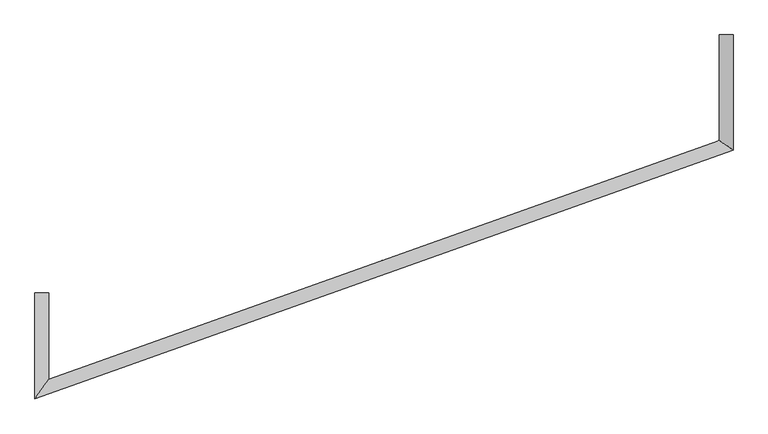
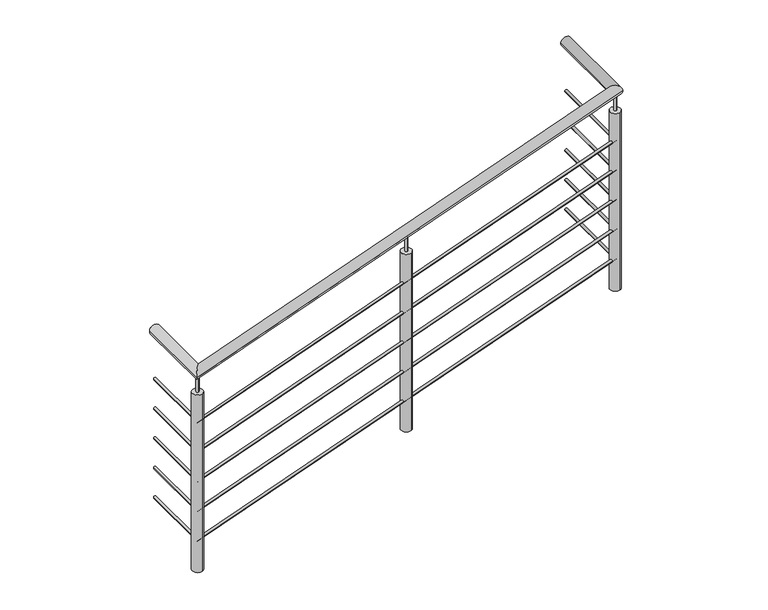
"""IFC4 building model written with IfcOpenShell, lengths in millimetres: railing geometry, Barandal general 2 sin inicio."""

import ifcopenshell
import ifcopenshell.guid

model = None  # the IFC model being written
_history = None  # IfcOwnerHistory: only IFC2X3 demands one
_inside = {}  # id of a spatial element -> (the spatial element, [elements in it])
_under = {}  # id of a project, library or spatial element -> (it, [spatial elements below it])
_declared = {}  # id of a project -> (the project, [libraries it declares])
_typed = {}  # id of a type object -> (the type object, [elements of that type])
_made_of = {}  # id of a material, layer set ... -> (it, [elements and type objects made of it])


def new_model(schema):
    """Start an empty IFC model of exactly this schema.

    Asked for "IFC4X3", IfcOpenShell would pick the latest addendum, in which some entities
    have other attributes; the version numbers below select the first issue.
    IFC2X3 requires an IfcOwnerHistory on every rooted entity: one is made here for all.
    """
    global model, _history
    if schema == "IFC4X3":
        model = ifcopenshell.file(schema_version=(4, 3, 0, 0))
    else:
        model = ifcopenshell.file(schema=schema)
    _inside.clear()
    _under.clear()
    _declared.clear()
    _typed.clear()
    _made_of.clear()
    _history = None
    if model.schema == "IFC2X3":
        org = make("IfcOrganization", Name="unknown")
        user = make(
            "IfcPersonAndOrganization",
            ThePerson=make("IfcPerson", FamilyName="unknown"),
            TheOrganization=org,
        )
        app = make(
            "IfcApplication",
            ApplicationDeveloper=org,
            Version="unknown",
            ApplicationFullName="unknown",
            ApplicationIdentifier="unknown",
        )
        _history = make(
            "IfcOwnerHistory",
            OwningUser=user,
            OwningApplication=app,
            ChangeAction="ADDED",
            CreationDate=0,
        )
    return model


def make(cls, **values):
    """One entity of the class cls with the attributes given. An attribute that is None is left unset."""
    return model.create_entity(
        cls, **{name: value for name, value in values.items() if value is not None}
    )


def rooted(cls, **values):
    """An entity with a GlobalId (a new one), such as an element, a storey or a relation."""
    return make(cls, GlobalId=ifcopenshell.guid.new(), OwnerHistory=_history, **values)


def si_unit(unit_type, name, prefix=None):
    """IfcSIUnit, for example si_unit("LENGTHUNIT", "METRE", prefix="MILLI")."""
    return make("IfcSIUnit", UnitType=unit_type, Prefix=prefix, Name=name)


def assignment(units):
    """IfcUnitAssignment: the units of a project."""
    return None if units is None else make("IfcUnitAssignment", Units=units)


def point(xyz):
    """IfcCartesianPoint."""
    return None if xyz is None else make("IfcCartesianPoint", Coordinates=xyz)


def direction(xyz):
    """IfcDirection."""
    return None if xyz is None else make("IfcDirection", DirectionRatios=xyz)


def frame(location, z_axis=None, x_axis=None):
    """IfcAxis2Placement3D, a coordinate frame: its origin and axes. An axis left out is left unset."""
    return make(
        "IfcAxis2Placement3D",
        Location=point(location),
        Axis=direction(z_axis),
        RefDirection=direction(x_axis),
    )


def frame_2d(location, x_axis=None):
    """IfcAxis2Placement2D, a coordinate frame in the plane: its origin and x axis."""
    return make(
        "IfcAxis2Placement2D", Location=point(location), RefDirection=direction(x_axis)
    )


def origin():
    """The frame at (0, 0, 0) with its axes left unset."""
    return frame((0.0, 0.0, 0.0))


def place(relative_to, where):
    """IfcLocalPlacement: puts the frame where relative to a parent placement (None: the world)."""
    return make(
        "IfcLocalPlacement", PlacementRelTo=relative_to, RelativePlacement=where
    )


def context(
    kind, dimensions, precision=None, world=None, true_north=None, identifier=None
):
    """IfcGeometricRepresentationContext, for example the 3D "Model" context."""
    return make(
        "IfcGeometricRepresentationContext",
        ContextIdentifier=identifier,
        ContextType=kind,
        CoordinateSpaceDimension=dimensions,
        Precision=precision,
        WorldCoordinateSystem=world,
        TrueNorth=true_north,
    )


def project(units=None, contexts=None):
    """IfcProject with its units and contexts."""
    return rooted(
        "IfcProject",
        Name="project",
        RepresentationContexts=contexts,
        UnitsInContext=assignment(units),
    )


def spatial(cls, under=None, at=None, **own):
    """A site, building, storey or space (cls), placed at a placement, below another one or the project."""
    s = rooted(cls, ObjectPlacement=at, **own)
    if under is not None:
        _under.setdefault(under.id(), (under, []))[1].append(s)
    return s


def circle_curve(where, radius):
    """IfcCircle in the frame where."""
    return make("IfcCircle", Position=where, Radius=radius)


def ellipse_curve(where, semi_axis1, semi_axis2):
    """IfcEllipse in the frame where."""
    return make(
        "IfcEllipse", Position=where, SemiAxis1=semi_axis1, SemiAxis2=semi_axis2
    )


def trimmed(basis, trim1, trim2, sense, master):
    """IfcTrimmedCurve: the piece of a basis curve between two trims."""
    return make(
        "IfcTrimmedCurve",
        BasisCurve=basis,
        Trim1=trim1,
        Trim2=trim2,
        SenseAgreement=sense,
        MasterRepresentation=master,
    )


def segment(curve, same_sense, transition):
    """IfcCompositeCurveSegment."""
    return make(
        "IfcCompositeCurveSegment",
        Transition=transition,
        SameSense=same_sense,
        ParentCurve=curve,
    )


def composite_curve(segments, self_intersect=None):
    """IfcCompositeCurve: segments joined end to end."""
    return make("IfcCompositeCurve", Segments=segments, SelfIntersect=self_intersect)


def outline(outer, holes=None, kind="AREA"):
    """IfcArbitraryClosedProfileDef: a profile drawn as a closed curve; with holes, ...WithVoids."""
    if holes is None:
        return make("IfcArbitraryClosedProfileDef", ProfileType=kind, OuterCurve=outer)
    return make(
        "IfcArbitraryProfileDefWithVoids",
        ProfileType=kind,
        OuterCurve=outer,
        InnerCurves=holes,
    )


def extrude(swept, where, along, depth):
    """IfcExtrudedAreaSolid: the profile swept, set in the frame where, extruded along a direction by depth."""
    return make(
        "IfcExtrudedAreaSolid",
        SweptArea=swept,
        Position=where,
        ExtrudedDirection=direction(along),
        Depth=depth,
    )


def shape(context_of_items, identifier, shape_type, items):
    """IfcShapeRepresentation: the items that make up one representation, for example the "Body"."""
    return make(
        "IfcShapeRepresentation",
        ContextOfItems=context_of_items,
        RepresentationIdentifier=identifier,
        RepresentationType=shape_type,
        Items=items,
    )


def source(mapping_origin, context_of_items, identifier, shape_type, items):
    """IfcRepresentationMap: a shape defined once, which mapped items show again and again."""
    return make(
        "IfcRepresentationMap",
        MappingOrigin=mapping_origin,
        MappedRepresentation=shape(context_of_items, identifier, shape_type, items),
    )


def transform(
    local_origin,
    x_axis=None,
    y_axis=None,
    z_axis=None,
    scale=None,
    scale2=None,
    scale3=None,
    uniform=True,
):
    """IfcCartesianTransformationOperator3D, or its non-uniform kind. x_axis, y_axis, z_axis: its Axis1, 2, 3."""
    if uniform:
        return make(
            "IfcCartesianTransformationOperator3D",
            Axis1=direction(x_axis),
            Axis2=direction(y_axis),
            LocalOrigin=point(local_origin),
            Scale=scale,
            Axis3=direction(z_axis),
        )
    return make(
        "IfcCartesianTransformationOperator3DnonUniform",
        Axis1=direction(x_axis),
        Axis2=direction(y_axis),
        LocalOrigin=point(local_origin),
        Scale=scale,
        Axis3=direction(z_axis),
        Scale2=scale2,
        Scale3=scale3,
    )


def mapped(mapping_source, mapping_target):
    """IfcMappedItem: shows the shape of a source again, moved by a transform."""
    return make(
        "IfcMappedItem", MappingSource=mapping_source, MappingTarget=mapping_target
    )


def made_of(thing, what):
    """Note that an element or type object is made of a material, layer set ...; save() writes the relation."""
    if what is not None:
        _made_of.setdefault(what.id(), (what, []))[1].append(thing)
    return thing


def element(
    cls,
    number,
    at=None,
    inside=None,
    cuts=None,
    type_object=None,
    material=None,
    context=None,
    identifier="Body",
    shape_type=None,
    held_by="IfcProductDefinitionShape",
    body=None,
    shapes=None,
    **own,
):
    """One element of the class cls, such as IfcWall. Its Tag is "e" and its number.

    at: its placement. inside: the storey or other place that contains it. cuts: it is an
    opening in that element (IfcRelVoidsElement). A single representation is given by context,
    identifier, shape_type and body (its items); several are given by shapes. held_by: the class
    of the entity that holds the representations. save() writes the other relations.
    """
    e = rooted(cls, Tag="e%d" % number, ObjectPlacement=at, **own)
    if body is not None:
        shapes = [shape(context, identifier, shape_type, body)]
    if shapes is not None:
        e.Representation = make(held_by, Representations=shapes)
    if inside is not None:
        _inside.setdefault(inside.id(), (inside, []))[1].append(e)
    if cuts is not None:
        rooted(
            "IfcRelVoidsElement", RelatingBuildingElement=cuts, RelatedOpeningElement=e
        )
    if type_object is not None:
        _typed.setdefault(type_object.id(), (type_object, []))[1].append(e)
    return made_of(e, material)


def aggregate(whole, parts):
    """IfcRelAggregates: a whole, such as a stair, and the parts it consists of."""
    return rooted("IfcRelAggregates", RelatingObject=whole, RelatedObjects=parts)


def save(model, path):
    """Write the relations noted so far, then the file.

    IfcRelAggregates (storeys below a building ...), IfcRelContainedInSpatialStructure (elements
    in a storey), IfcRelDefinesByType, IfcRelAssociatesMaterial and IfcRelDeclares: one each for
    every whole, place, type object, material and project.
    """
    for whole, parts in _under.values():
        aggregate(whole, parts)
    for where, things in _inside.values():
        rooted(
            "IfcRelContainedInSpatialStructure",
            RelatedElements=things,
            RelatingStructure=where,
        )
    for kind, things in _typed.values():
        rooted("IfcRelDefinesByType", RelatedObjects=things, RelatingType=kind)
    for what, things in _made_of.values():
        rooted("IfcRelAssociatesMaterial", RelatedObjects=things, RelatingMaterial=what)
    for by, libraries in _declared.values():
        rooted("IfcRelDeclares", RelatingContext=by, RelatedDefinitions=libraries)
    model.write(path)


def plane_surface(at):
    """IfcPlane: the flat surface through the origin of the frame at, square to its z axis."""
    return make("IfcPlane", Position=at)


def cylinder_surface(at, radius):
    """IfcCylindricalSurface: all points at the distance radius from the z axis of the frame at."""
    return make("IfcCylindricalSurface", Position=at, Radius=radius)


def advanced_brep(points, edges, surfaces, faces):
    """IfcAdvancedBrep: a solid bounded by faces that lie on surfaces and meet in shared edges.

    An edge is (start, end): straight between two places in points (the first is 0);
    or (start, end, curve); or (start, end, curve, False) where it runs against its curve.
    A face is (place in surfaces, loops), or (place, loops, False) where it looks against
    its surface's normal. A loop lists edges by number (the first is 1), with a minus sign
    where the edge is run from its end to its start. The first loop is the outer one.
    """
    corners = [point(p) for p in points]
    vertices = [make("IfcVertexPoint", VertexGeometry=c) for c in corners]
    made = []
    for start, end, *more in edges:
        made.append(
            make(
                "IfcEdgeCurve",
                EdgeStart=vertices[start],
                EdgeEnd=vertices[end],
                EdgeGeometry=more[0] if more else make("IfcPolyline", Points=[corners[start], corners[end]]),
                SameSense=more[1] if len(more) > 1 else True,
            )
        )
    hull = []
    for where, loops, *sense in faces:
        bounds = []
        for j, loop in enumerate(loops):
            ring = [make("IfcOrientedEdge", EdgeElement=made[abs(k) - 1], Orientation=k > 0) for k in loop]
            bounds.append(
                make(
                    "IfcFaceOuterBound" if j == 0 else "IfcFaceBound",
                    Bound=make("IfcEdgeLoop", EdgeList=ring),
                    Orientation=True,
                )
            )
        hull.append(make("IfcAdvancedFace", Bounds=bounds, FaceSurface=surfaces[where], SameSense=sense[0] if sense else True))
    return make("IfcAdvancedBrep", Outer=make("IfcClosedShell", CfsFaces=hull))


def railing_feb85b43(model_context):
    return source(origin(), model_context, "Body", "SolidModel", [
        advanced_brep(
        [(39004.1057586, 22857.0021633, 7000.0), (39054.9057586, 22857.0021633, 7000.0), (39054.9057586, 22431.9822302, 7000.0), (39004.1057586, 22467.808589, 7000.0), (36484.1300226, 21515.8771439, 7000.0), (36534.9300226, 21587.9090245, 7000.0), (36534.9300226, 21905.5468038, 7000.0), (36484.1300226, 21905.5468038, 7000.0)],
        [
            (0, 1, circle_curve(frame((39029.5057586, 22857.0021633, 7000.0), z_axis=(0.0, 1.0, 0.0), x_axis=(1.0, 0.0, 0.0)), 25.4)),
            (1, 0, circle_curve(frame((39029.5057586, 22857.0021633, 7000.0), z_axis=(0.0, 1.0, 0.0), x_axis=(1.0, 0.0, 0.0)), 25.4)),
            (1, 2),
            (2, 3, ellipse_curve(frame((39029.5057586, 22449.8954096, 7000.0), z_axis=(0.5763345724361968, 0.8172138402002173, 0.0), x_axis=(-0.8172138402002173, 0.5763345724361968, 0.0)), 31.0812161, 25.4)),
            (3, 0),
            (3, 2, ellipse_curve(frame((39029.5057586, 22449.8954096, 7000.0), z_axis=(0.5763345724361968, 0.8172138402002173, 0.0), x_axis=(-0.8172138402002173, 0.5763345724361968, 0.0)), 31.0812161, 25.4)),
            (2, 4),
            (4, 5, ellipse_curve(frame((36509.5300226, 21551.8930842, 7000.0), z_axis=(0.8172138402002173, -0.5763345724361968, 0.0), x_axis=(0.5763345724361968, 0.8172138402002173, 0.0)), 44.071623, 25.4)),
            (5, 3),
            (5, 4, ellipse_curve(frame((36509.5300226, 21551.8930842, 7000.0), z_axis=(0.8172138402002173, -0.5763345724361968, 0.0), x_axis=(0.5763345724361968, 0.8172138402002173, 0.0)), 44.071623, 25.4)),
            (6, 7, circle_curve(frame((36509.5300226, 21905.5468038, 7000.0), z_axis=(0.0, 1.0, 0.0), x_axis=(-1.0, 0.0, 0.0)), 25.4)),
            (7, 6, circle_curve(frame((36509.5300226, 21905.5468038, 7000.0), z_axis=(0.0, 1.0, 0.0), x_axis=(-1.0, 0.0, 0.0)), 25.4)),
            (4, 7),
            (6, 5),
        ],
        [
            plane_surface(frame((39029.5057586, 22857.0021633, 7000.0), z_axis=(0.0, 1.0, 0.0), x_axis=(0.0, 0.0, -1.0))),
            cylinder_surface(frame((39029.5057586, 22857.0021633, 7000.0), z_axis=(0.0, 1.0, 0.0), x_axis=(1.0, 0.0, 0.0)), 25.4),
            cylinder_surface(frame((39029.5057586, 22449.8954096, 7000.0), z_axis=(0.9419771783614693, 0.33567692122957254, 0.0), x_axis=(0.33567692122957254, -0.9419771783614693, 0.0)), 25.4),
            plane_surface(frame((36509.5300226, 21905.5468038, 7000.0), z_axis=(0.0, 1.0, 0.0), x_axis=(0.0, 0.0, 1.0))),
            cylinder_surface(frame((36509.5300226, 21551.8930842, 7000.0), z_axis=(0.0, -1.0, 0.0), x_axis=(-1.0, 0.0, 0.0)), 25.4),
        ],
        [
            (0, [[1, 2]]),
            (1, [[-2, 3, 4, 5]]),
            (1, [[-1, -5, 6, -3]]),
            (2, [[-4, 7, 8, 9]]),
            (2, [[-6, -9, 10, -7]]),
            (3, [[11, 12]]),
            (4, [[-8, 13, -11, 14]]),
            (4, [[-10, -14, -12, -13]]),
        ],
    ),
        advanced_brep(
        [(39023.1557586, 22857.0021633, 6750.0), (39035.8557586, 22857.0021633, 6750.0), (39035.8557586, 22445.4171147, 6750.0), (39023.1557586, 22454.3737044, 6750.0), (36503.1800226, 21542.8890991, 6750.0), (36515.8800226, 21560.8970693, 6750.0), (36515.8800226, 21905.5468038, 6750.0), (36503.1800226, 21905.5468038, 6750.0)],
        [
            (0, 1, circle_curve(frame((39029.5057586, 22857.0021633, 6750.0), z_axis=(0.0, 1.0, 0.0), x_axis=(1.0, 0.0, 0.0)), 6.35)),
            (1, 0, circle_curve(frame((39029.5057586, 22857.0021633, 6750.0), z_axis=(0.0, 1.0, 0.0), x_axis=(1.0, 0.0, 0.0)), 6.35)),
            (1, 2),
            (2, 3, ellipse_curve(frame((39029.5057586, 22449.8954096, 6750.0), z_axis=(0.5763345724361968, 0.8172138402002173, 0.0), x_axis=(-0.8172138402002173, 0.5763345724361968, 0.0)), 7.770304, 6.35)),
            (3, 0),
            (3, 2, ellipse_curve(frame((39029.5057586, 22449.8954096, 6750.0), z_axis=(0.5763345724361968, 0.8172138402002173, 0.0), x_axis=(-0.8172138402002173, 0.5763345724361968, 0.0)), 7.770304, 6.35)),
            (2, 4),
            (4, 5, ellipse_curve(frame((36509.5300226, 21551.8930842, 6750.0), z_axis=(0.8172138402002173, -0.5763345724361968, 0.0), x_axis=(0.5763345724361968, 0.8172138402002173, 0.0)), 11.0179058, 6.35)),
            (5, 3),
            (5, 4, ellipse_curve(frame((36509.5300226, 21551.8930842, 6750.0), z_axis=(0.8172138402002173, -0.5763345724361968, 0.0), x_axis=(0.5763345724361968, 0.8172138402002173, 0.0)), 11.0179058, 6.35)),
            (6, 7, circle_curve(frame((36509.5300226, 21905.5468038, 6750.0), z_axis=(0.0, 1.0, 0.0), x_axis=(-1.0, 0.0, 0.0)), 6.35)),
            (7, 6, circle_curve(frame((36509.5300226, 21905.5468038, 6750.0), z_axis=(0.0, 1.0, 0.0), x_axis=(-1.0, 0.0, 0.0)), 6.35)),
            (4, 7),
            (6, 5),
        ],
        [
            plane_surface(frame((39029.5057586, 22857.0021633, 6750.0), z_axis=(0.0, 1.0, 0.0), x_axis=(0.0, 0.0, -1.0))),
            cylinder_surface(frame((39029.5057586, 22857.0021633, 6750.0), z_axis=(0.0, 1.0, 0.0), x_axis=(1.0, 0.0, 0.0)), 6.35),
            cylinder_surface(frame((39029.5057586, 22449.8954096, 6750.0), z_axis=(0.9419771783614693, 0.33567692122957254, 0.0), x_axis=(0.33567692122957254, -0.9419771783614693, 0.0)), 6.35),
            plane_surface(frame((36509.5300226, 21905.5468038, 6750.0), z_axis=(0.0, 1.0, 0.0), x_axis=(0.0, 0.0, 1.0))),
            cylinder_surface(frame((36509.5300226, 21551.8930842, 6750.0), z_axis=(0.0, -1.0, 0.0), x_axis=(-1.0, 0.0, 0.0)), 6.35),
        ],
        [
            (0, [[1, 2]]),
            (1, [[-2, 3, 4, 5]]),
            (1, [[-1, -5, 6, -3]]),
            (2, [[-4, 7, 8, 9]]),
            (2, [[-6, -9, 10, -7]]),
            (3, [[11, 12]]),
            (4, [[-8, 13, -11, 14]]),
            (4, [[-10, -14, -12, -13]]),
        ],
    ),
        advanced_brep(
        [(39023.1557586, 22857.0021633, 6600.0), (39035.8557586, 22857.0021633, 6600.0), (39035.8557586, 22445.4171147, 6600.0), (39023.1557586, 22454.3737044, 6600.0), (36503.1800226, 21542.8890991, 6600.0), (36515.8800226, 21560.8970693, 6600.0), (36515.8800226, 21905.5468038, 6600.0), (36503.1800226, 21905.5468038, 6600.0)],
        [
            (0, 1, circle_curve(frame((39029.5057586, 22857.0021633, 6600.0), z_axis=(0.0, 1.0, 0.0), x_axis=(1.0, 0.0, 0.0)), 6.35)),
            (1, 0, circle_curve(frame((39029.5057586, 22857.0021633, 6600.0), z_axis=(0.0, 1.0, 0.0), x_axis=(1.0, 0.0, 0.0)), 6.35)),
            (1, 2),
            (2, 3, ellipse_curve(frame((39029.5057586, 22449.8954096, 6600.0), z_axis=(0.5763345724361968, 0.8172138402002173, 0.0), x_axis=(-0.8172138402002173, 0.5763345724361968, 0.0)), 7.770304, 6.35)),
            (3, 0),
            (3, 2, ellipse_curve(frame((39029.5057586, 22449.8954096, 6600.0), z_axis=(0.5763345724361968, 0.8172138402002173, 0.0), x_axis=(-0.8172138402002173, 0.5763345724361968, 0.0)), 7.770304, 6.35)),
            (2, 4),
            (4, 5, ellipse_curve(frame((36509.5300226, 21551.8930842, 6600.0), z_axis=(0.8172138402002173, -0.5763345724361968, 0.0), x_axis=(0.5763345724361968, 0.8172138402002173, 0.0)), 11.0179058, 6.35)),
            (5, 3),
            (5, 4, ellipse_curve(frame((36509.5300226, 21551.8930842, 6600.0), z_axis=(0.8172138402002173, -0.5763345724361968, 0.0), x_axis=(0.5763345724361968, 0.8172138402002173, 0.0)), 11.0179058, 6.35)),
            (6, 7, circle_curve(frame((36509.5300226, 21905.5468038, 6600.0), z_axis=(0.0, 1.0, 0.0), x_axis=(-1.0, 0.0, 0.0)), 6.35)),
            (7, 6, circle_curve(frame((36509.5300226, 21905.5468038, 6600.0), z_axis=(0.0, 1.0, 0.0), x_axis=(-1.0, 0.0, 0.0)), 6.35)),
            (4, 7),
            (6, 5),
        ],
        [
            plane_surface(frame((39029.5057586, 22857.0021633, 6600.0), z_axis=(0.0, 1.0, 0.0), x_axis=(0.0, 0.0, -1.0))),
            cylinder_surface(frame((39029.5057586, 22857.0021633, 6600.0), z_axis=(0.0, 1.0, 0.0), x_axis=(1.0, 0.0, 0.0)), 6.35),
            cylinder_surface(frame((39029.5057586, 22449.8954096, 6600.0), z_axis=(0.9419771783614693, 0.33567692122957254, 0.0), x_axis=(0.33567692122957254, -0.9419771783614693, 0.0)), 6.35),
            plane_surface(frame((36509.5300226, 21905.5468038, 6600.0), z_axis=(0.0, 1.0, 0.0), x_axis=(0.0, 0.0, 1.0))),
            cylinder_surface(frame((36509.5300226, 21551.8930842, 6600.0), z_axis=(0.0, -1.0, 0.0), x_axis=(-1.0, 0.0, 0.0)), 6.35),
        ],
        [
            (0, [[1, 2]]),
            (1, [[-2, 3, 4, 5]]),
            (1, [[-1, -5, 6, -3]]),
            (2, [[-4, 7, 8, 9]]),
            (2, [[-6, -9, 10, -7]]),
            (3, [[11, 12]]),
            (4, [[-8, 13, -11, 14]]),
            (4, [[-10, -14, -12, -13]]),
        ],
    ),
        advanced_brep(
        [(39023.1557586, 22857.0021633, 6450.0), (39035.8557586, 22857.0021633, 6450.0), (39035.8557586, 22445.4171147, 6450.0), (39023.1557586, 22454.3737044, 6450.0), (36503.1800226, 21542.8890991, 6450.0), (36515.8800226, 21560.8970693, 6450.0), (36515.8800226, 21905.5468038, 6450.0), (36503.1800226, 21905.5468038, 6450.0)],
        [
            (0, 1, circle_curve(frame((39029.5057586, 22857.0021633, 6450.0), z_axis=(0.0, 1.0, 0.0), x_axis=(1.0, 0.0, 0.0)), 6.35)),
            (1, 0, circle_curve(frame((39029.5057586, 22857.0021633, 6450.0), z_axis=(0.0, 1.0, 0.0), x_axis=(1.0, 0.0, 0.0)), 6.35)),
            (1, 2),
            (2, 3, ellipse_curve(frame((39029.5057586, 22449.8954096, 6450.0), z_axis=(0.5763345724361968, 0.8172138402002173, 0.0), x_axis=(-0.8172138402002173, 0.5763345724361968, 0.0)), 7.770304, 6.35)),
            (3, 0),
            (3, 2, ellipse_curve(frame((39029.5057586, 22449.8954096, 6450.0), z_axis=(0.5763345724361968, 0.8172138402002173, 0.0), x_axis=(-0.8172138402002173, 0.5763345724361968, 0.0)), 7.770304, 6.35)),
            (2, 4),
            (4, 5, ellipse_curve(frame((36509.5300226, 21551.8930842, 6450.0), z_axis=(0.8172138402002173, -0.5763345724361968, 0.0), x_axis=(0.5763345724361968, 0.8172138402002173, 0.0)), 11.0179058, 6.35)),
            (5, 3),
            (5, 4, ellipse_curve(frame((36509.5300226, 21551.8930842, 6450.0), z_axis=(0.8172138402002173, -0.5763345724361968, 0.0), x_axis=(0.5763345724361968, 0.8172138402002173, 0.0)), 11.0179058, 6.35)),
            (6, 7, circle_curve(frame((36509.5300226, 21905.5468038, 6450.0), z_axis=(0.0, 1.0, 0.0), x_axis=(-1.0, 0.0, 0.0)), 6.35)),
            (7, 6, circle_curve(frame((36509.5300226, 21905.5468038, 6450.0), z_axis=(0.0, 1.0, 0.0), x_axis=(-1.0, 0.0, 0.0)), 6.35)),
            (4, 7),
            (6, 5),
        ],
        [
            plane_surface(frame((39029.5057586, 22857.0021633, 6450.0), z_axis=(0.0, 1.0, 0.0), x_axis=(0.0, 0.0, -1.0))),
            cylinder_surface(frame((39029.5057586, 22857.0021633, 6450.0), z_axis=(0.0, 1.0, 0.0), x_axis=(1.0, 0.0, 0.0)), 6.35),
            cylinder_surface(frame((39029.5057586, 22449.8954096, 6450.0), z_axis=(0.9419771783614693, 0.33567692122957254, 0.0), x_axis=(0.33567692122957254, -0.9419771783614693, 0.0)), 6.35),
            plane_surface(frame((36509.5300226, 21905.5468038, 6450.0), z_axis=(0.0, 1.0, 0.0), x_axis=(0.0, 0.0, 1.0))),
            cylinder_surface(frame((36509.5300226, 21551.8930842, 6450.0), z_axis=(0.0, -1.0, 0.0), x_axis=(-1.0, 0.0, 0.0)), 6.35),
        ],
        [
            (0, [[1, 2]]),
            (1, [[-2, 3, 4, 5]]),
            (1, [[-1, -5, 6, -3]]),
            (2, [[-4, 7, 8, 9]]),
            (2, [[-6, -9, 10, -7]]),
            (3, [[11, 12]]),
            (4, [[-8, 13, -11, 14]]),
            (4, [[-10, -14, -12, -13]]),
        ],
    ),
        advanced_brep(
        [(39023.1557586, 22857.0021633, 6300.0), (39035.8557586, 22857.0021633, 6300.0), (39035.8557586, 22445.4171147, 6300.0), (39023.1557586, 22454.3737044, 6300.0), (36503.1800226, 21542.8890991, 6300.0), (36515.8800226, 21560.8970693, 6300.0), (36515.8800226, 21905.5468038, 6300.0), (36503.1800226, 21905.5468038, 6300.0)],
        [
            (0, 1, circle_curve(frame((39029.5057586, 22857.0021633, 6300.0), z_axis=(0.0, 1.0, 0.0), x_axis=(1.0, 0.0, 0.0)), 6.35)),
            (1, 0, circle_curve(frame((39029.5057586, 22857.0021633, 6300.0), z_axis=(0.0, 1.0, 0.0), x_axis=(1.0, 0.0, 0.0)), 6.35)),
            (1, 2),
            (2, 3, ellipse_curve(frame((39029.5057586, 22449.8954096, 6300.0), z_axis=(0.5763345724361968, 0.8172138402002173, 0.0), x_axis=(-0.8172138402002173, 0.5763345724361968, 0.0)), 7.770304, 6.35)),
            (3, 0),
            (3, 2, ellipse_curve(frame((39029.5057586, 22449.8954096, 6300.0), z_axis=(0.5763345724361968, 0.8172138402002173, 0.0), x_axis=(-0.8172138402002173, 0.5763345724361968, 0.0)), 7.770304, 6.35)),
            (2, 4),
            (4, 5, ellipse_curve(frame((36509.5300226, 21551.8930842, 6300.0), z_axis=(0.8172138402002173, -0.5763345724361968, 0.0), x_axis=(0.5763345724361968, 0.8172138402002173, 0.0)), 11.0179058, 6.35)),
            (5, 3),
            (5, 4, ellipse_curve(frame((36509.5300226, 21551.8930842, 6300.0), z_axis=(0.8172138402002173, -0.5763345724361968, 0.0), x_axis=(0.5763345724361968, 0.8172138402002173, 0.0)), 11.0179058, 6.35)),
            (6, 7, circle_curve(frame((36509.5300226, 21905.5468038, 6300.0), z_axis=(0.0, 1.0, 0.0), x_axis=(-1.0, 0.0, 0.0)), 6.35)),
            (7, 6, circle_curve(frame((36509.5300226, 21905.5468038, 6300.0), z_axis=(0.0, 1.0, 0.0), x_axis=(-1.0, 0.0, 0.0)), 6.35)),
            (4, 7),
            (6, 5),
        ],
        [
            plane_surface(frame((39029.5057586, 22857.0021633, 6300.0), z_axis=(0.0, 1.0, 0.0), x_axis=(0.0, 0.0, -1.0))),
            cylinder_surface(frame((39029.5057586, 22857.0021633, 6300.0), z_axis=(0.0, 1.0, 0.0), x_axis=(1.0, 0.0, 0.0)), 6.35),
            cylinder_surface(frame((39029.5057586, 22449.8954096, 6300.0), z_axis=(0.9419771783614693, 0.33567692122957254, 0.0), x_axis=(0.33567692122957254, -0.9419771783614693, 0.0)), 6.35),
            plane_surface(frame((36509.5300226, 21905.5468038, 6300.0), z_axis=(0.0, 1.0, 0.0), x_axis=(0.0, 0.0, 1.0))),
            cylinder_surface(frame((36509.5300226, 21551.8930842, 6300.0), z_axis=(0.0, -1.0, 0.0), x_axis=(-1.0, 0.0, 0.0)), 6.35),
        ],
        [
            (0, [[1, 2]]),
            (1, [[-2, 3, 4, 5]]),
            (1, [[-1, -5, 6, -3]]),
            (2, [[-4, 7, 8, 9]]),
            (2, [[-6, -9, 10, -7]]),
            (3, [[11, 12]]),
            (4, [[-8, 13, -11, 14]]),
            (4, [[-10, -14, -12, -13]]),
        ],
    ),
        advanced_brep(
        [(39023.1557586, 22857.0021633, 6150.0), (39035.8557586, 22857.0021633, 6150.0), (39035.8557586, 22445.4171147, 6150.0), (39023.1557586, 22454.3737044, 6150.0), (36503.1800226, 21542.8890991, 6150.0), (36515.8800226, 21560.8970693, 6150.0), (36515.8800226, 21905.5468038, 6150.0), (36503.1800226, 21905.5468038, 6150.0)],
        [
            (0, 1, circle_curve(frame((39029.5057586, 22857.0021633, 6150.0), z_axis=(0.0, 1.0, 0.0), x_axis=(1.0, 0.0, 0.0)), 6.35)),
            (1, 0, circle_curve(frame((39029.5057586, 22857.0021633, 6150.0), z_axis=(0.0, 1.0, 0.0), x_axis=(1.0, 0.0, 0.0)), 6.35)),
            (1, 2),
            (2, 3, ellipse_curve(frame((39029.5057586, 22449.8954096, 6150.0), z_axis=(0.5763345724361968, 0.8172138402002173, 0.0), x_axis=(-0.8172138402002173, 0.5763345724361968, 0.0)), 7.770304, 6.35)),
            (3, 0),
            (3, 2, ellipse_curve(frame((39029.5057586, 22449.8954096, 6150.0), z_axis=(0.5763345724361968, 0.8172138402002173, 0.0), x_axis=(-0.8172138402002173, 0.5763345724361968, 0.0)), 7.770304, 6.35)),
            (2, 4),
            (4, 5, ellipse_curve(frame((36509.5300226, 21551.8930842, 6150.0), z_axis=(0.8172138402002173, -0.5763345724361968, 0.0), x_axis=(0.5763345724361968, 0.8172138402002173, 0.0)), 11.0179058, 6.35)),
            (5, 3),
            (5, 4, ellipse_curve(frame((36509.5300226, 21551.8930842, 6150.0), z_axis=(0.8172138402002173, -0.5763345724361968, 0.0), x_axis=(0.5763345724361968, 0.8172138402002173, 0.0)), 11.0179058, 6.35)),
            (6, 7, circle_curve(frame((36509.5300226, 21905.5468038, 6150.0), z_axis=(0.0, 1.0, 0.0), x_axis=(-1.0, 0.0, 0.0)), 6.35)),
            (7, 6, circle_curve(frame((36509.5300226, 21905.5468038, 6150.0), z_axis=(0.0, 1.0, 0.0), x_axis=(-1.0, 0.0, 0.0)), 6.35)),
            (4, 7),
            (6, 5),
        ],
        [
            plane_surface(frame((39029.5057586, 22857.0021633, 6150.0), z_axis=(0.0, 1.0, 0.0), x_axis=(0.0, 0.0, -1.0))),
            cylinder_surface(frame((39029.5057586, 22857.0021633, 6150.0), z_axis=(0.0, 1.0, 0.0), x_axis=(1.0, 0.0, 0.0)), 6.35),
            cylinder_surface(frame((39029.5057586, 22449.8954096, 6150.0), z_axis=(0.9419771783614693, 0.33567692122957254, 0.0), x_axis=(0.33567692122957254, -0.9419771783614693, 0.0)), 6.35),
            plane_surface(frame((36509.5300226, 21905.5468038, 6150.0), z_axis=(0.0, 1.0, 0.0), x_axis=(0.0, 0.0, 1.0))),
            cylinder_surface(frame((36509.5300226, 21551.8930842, 6150.0), z_axis=(0.0, -1.0, 0.0), x_axis=(-1.0, 0.0, 0.0)), 6.35),
        ],
        [
            (0, [[1, 2]]),
            (1, [[-2, 3, 4, 5]]),
            (1, [[-1, -5, 6, -3]]),
            (2, [[-4, 7, 8, 9]]),
            (2, [[-6, -9, 10, -7]]),
            (3, [[11, 12]]),
            (4, [[-8, 13, -11, 14]]),
            (4, [[-10, -14, -12, -13]]),
        ],
    ),
        extrude(outline(composite_curve([segment(trimmed(circle_curve(frame_2d((36509.5300226, 21551.8930842)), 6.35), [point((36511.661571, 21545.9115291))], [point((36507.3984741, 21557.8746393))], False, "CARTESIAN"), True, "CONTINUOUS"), segment(trimmed(circle_curve(frame_2d((36509.5300226, 21551.8930842)), 6.35), [point((36507.3984741, 21557.8746393))], [point((36511.661571, 21545.9115291))], False, "CARTESIAN"), True, "CONTINUOUS")], self_intersect=False)), frame((0.0, 0.0, 6899.6), z_axis=(0.0, 0.0, 1.0), x_axis=(1.0, 0.0, 0.0)), (0.0, 0.0, 1.0), 75.0),
        extrude(outline(composite_curve([segment(trimmed(circle_curve(frame_2d((36509.5300226, 21551.8930842)), 25.4), [point((36518.0562164, 21527.9668639))], [point((36501.0038288, 21575.8193045))], False, "CARTESIAN"), True, "CONTINUOUS"), segment(trimmed(circle_curve(frame_2d((36509.5300226, 21551.8930842)), 25.4), [point((36501.0038288, 21575.8193045))], [point((36518.0562164, 21527.9668639))], False, "CARTESIAN"), True, "CONTINUOUS")], self_intersect=False)), frame((0.0, 0.0, 6000.0), z_axis=(0.0, 0.0, 1.0), x_axis=(1.0, 0.0, 0.0)), (0.0, 0.0, 1.0), 899.6),
        extrude(outline(composite_curve([segment(trimmed(circle_curve(frame_2d((37769.5178906, 22000.8942469)), 6.35), [point((37771.649439, 21994.9126918))], [point((37767.3863421, 22006.875802))], False, "CARTESIAN"), True, "CONTINUOUS"), segment(trimmed(circle_curve(frame_2d((37769.5178906, 22000.8942469)), 6.35), [point((37767.3863421, 22006.875802))], [point((37771.649439, 21994.9126918))], False, "CARTESIAN"), True, "CONTINUOUS")], self_intersect=False)), frame((0.0, 0.0, 6899.6), z_axis=(0.0, 0.0, 1.0), x_axis=(1.0, 0.0, 0.0)), (0.0, 0.0, 1.0), 75.0),
        extrude(outline(composite_curve([segment(trimmed(circle_curve(frame_2d((37769.5178906, 22000.8942469)), 25.4), [point((37778.0440844, 21976.9680266))], [point((37760.9916968, 22024.8204672))], False, "CARTESIAN"), True, "CONTINUOUS"), segment(trimmed(circle_curve(frame_2d((37769.5178906, 22000.8942469)), 25.4), [point((37760.9916968, 22024.8204672))], [point((37778.0440844, 21976.9680266))], False, "CARTESIAN"), True, "CONTINUOUS")], self_intersect=False)), frame((0.0, 0.0, 6000.0), z_axis=(0.0, 0.0, 1.0), x_axis=(1.0, 0.0, 0.0)), (0.0, 0.0, 1.0), 899.6),
        extrude(outline(composite_curve([segment(trimmed(circle_curve(frame_2d((39029.5057586, 22449.8954096)), 6.35), [point((39031.637307, 22443.9138545))], [point((39027.3742101, 22455.8769647))], False, "CARTESIAN"), True, "CONTINUOUS"), segment(trimmed(circle_curve(frame_2d((39029.5057586, 22449.8954096)), 6.35), [point((39027.3742101, 22455.8769647))], [point((39031.637307, 22443.9138545))], False, "CARTESIAN"), True, "CONTINUOUS")], self_intersect=False)), frame((0.0, 0.0, 6899.6), z_axis=(0.0, 0.0, 1.0), x_axis=(1.0, 0.0, 0.0)), (0.0, 0.0, 1.0), 75.0),
        extrude(outline(composite_curve([segment(trimmed(circle_curve(frame_2d((39029.5057586, 22449.8954096)), 25.4), [point((39038.0319524, 22425.9691892))], [point((39020.9795648, 22473.8216299))], False, "CARTESIAN"), True, "CONTINUOUS"), segment(trimmed(circle_curve(frame_2d((39029.5057586, 22449.8954096)), 25.4), [point((39020.9795648, 22473.8216299))], [point((39038.0319524, 22425.9691892))], False, "CARTESIAN"), True, "CONTINUOUS")], self_intersect=False)), frame((0.0, 0.0, 6000.0), z_axis=(0.0, 0.0, 1.0), x_axis=(1.0, 0.0, 0.0)), (0.0, 0.0, 1.0), 899.6),
    ])


if __name__ == "__main__":
    model = new_model("IFC4")
    model_context = context("Model", 3, world=origin())
    ifc_project = project(units=[si_unit("LENGTHUNIT", "METRE", prefix="MILLI")], contexts=[model_context])
    site = spatial("IfcSite", under=ifc_project)
    building = spatial("IfcBuilding", under=site)
    placement = place(None, origin())
    railing_shape = railing_feb85b43(model_context)
    element("IfcRailing", 1, ObjectType="Barandal general 2 sin inicio", at=placement, inside=building, context=model_context, shape_type="MappedRepresentation", body=[
        mapped(railing_shape, transform((0.0, 0.0, 0.0), x_axis=(1.0, 0.0, 0.0), y_axis=(0.0, 1.0, 0.0), z_axis=(0.0, 0.0, 1.0))),
    ])
    save(model, "model.ifc")
